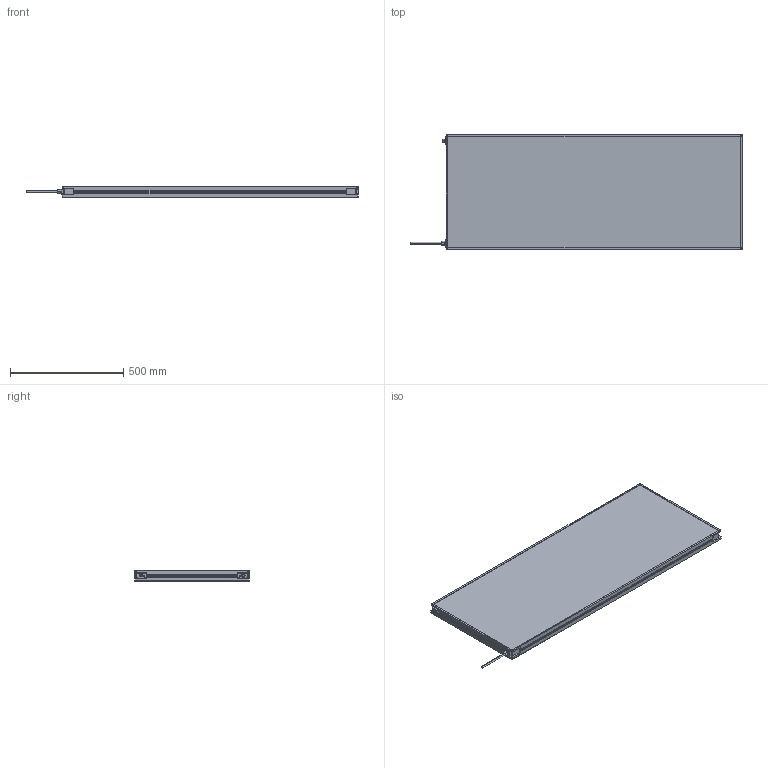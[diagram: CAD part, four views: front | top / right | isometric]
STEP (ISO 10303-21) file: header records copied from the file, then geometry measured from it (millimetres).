
FILE_DESCRIPTION (( 'STEP AP214' ), '1' );
FILE_NAME ('MBACK-xxxx-xxx-M1A2_CLIENT500x1300.STEP', '2022-04-01T11:40:52', ( '' ), ( '' ), 'SwSTEP 2.0', 'SolidWorks 2020', '' );
FILE_SCHEMA (( 'AUTOMOTIVE_DESIGN' ));
Length unit declared in the file: millimetre
Products named in the file (1): MBACK-xxxx-xxx-M1A2_CLIENT500x1300
Bounding box: 1467.4 x 508 x 45.5 mm (x, y, z)
Volume: 27676421.2 mm3; surface area: 1576125.4 mm2
Topology: 1 solids, 1 shells, 470 faces, 1210 edges, 804 vertices
Faces by surface type: plane 265, cylinder 117, bspline 80, cone 8
Entity records: 18046 total; most frequent: CARTESIAN_POINT 6837, ORIENTED_EDGE 2420, DIRECTION 2082, EDGE_CURVE 1210, VERTEX_POINT 804, LINE 800, VECTOR 800, AXIS2_PLACEMENT_3D 641
